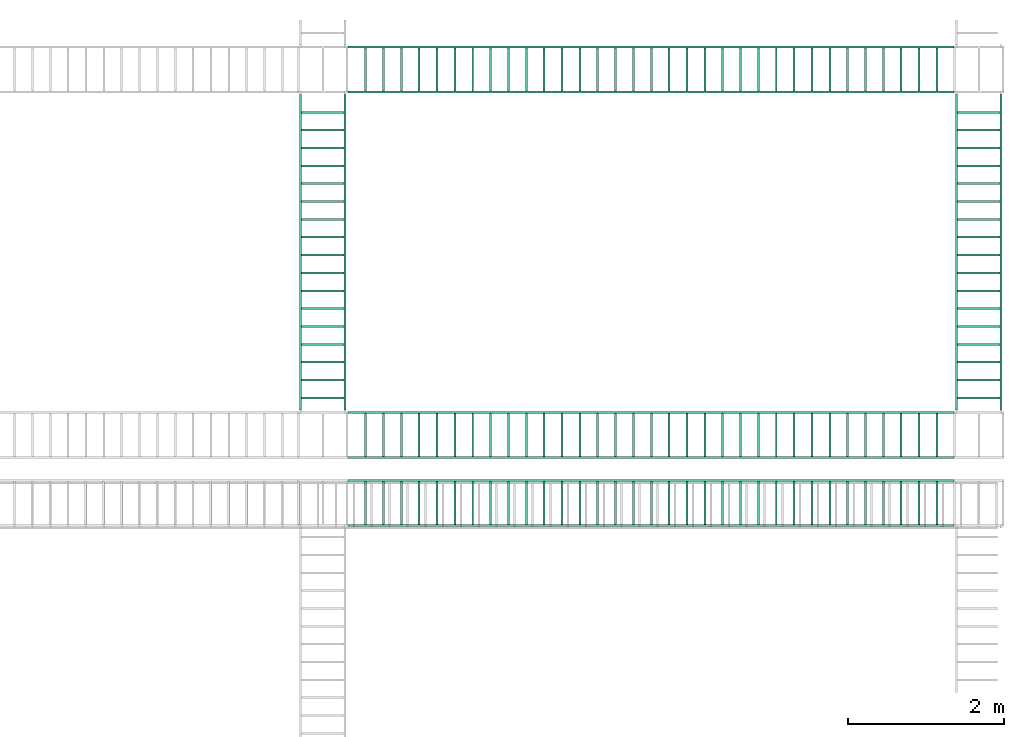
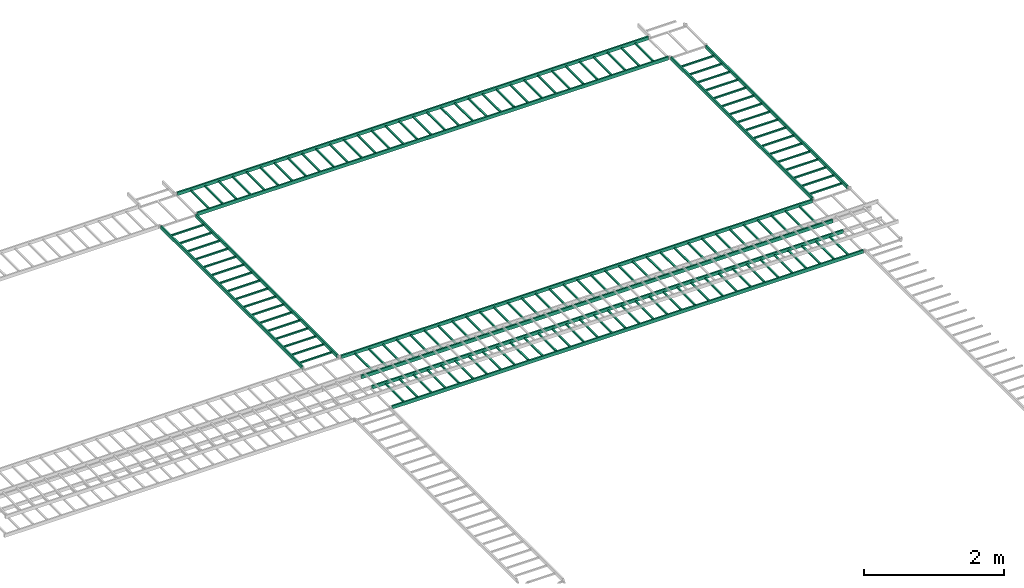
# One storey, part 1 of 7: 5 flow segments.
"""IFC2X3 building model written with IfcOpenShell, lengths in millimetres."""

from ifc_helpers import new_model, entity, si_unit, converted_unit, derived_unit, direction, frame, origin_with_axes, place, context, subcontext, project, spatial, open_shell, surface_model, source, transform, mapped, type_object, element, save


model = new_model("IFC2X3")

# Units and contexts
model_context = context("Model", 3, precision=0.01, world=frame((0.0, 4.29681676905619e-09, 0.0)), true_north=direction((4.01073788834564e-13, 1.0)))
plan_context = context("Plan", 3, precision=0.01, world=frame((0.0, 4.29681676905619e-09, 0.0)), true_north=direction((4.01073788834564e-13, 1.0)))
body_context = subcontext(model_context, "Body", "Model", "MODEL_VIEW")
ifc_project = project(units=[converted_unit("PLANEANGLEUNIT", "DEGREE", entity("IfcPositiveLengthMeasure", 0.0174532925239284), si_unit("PLANEANGLEUNIT", "RADIAN"), dimensions=[0, 0, 0, 0, 0, 0, 0]), si_unit("AREAUNIT", "SQUARE_METRE"), si_unit("LENGTHUNIT", "METRE", prefix="MILLI"), si_unit("MASSUNIT", "GRAM", prefix="KILO"), si_unit("POWERUNIT", "WATT"), si_unit("PRESSUREUNIT", "PASCAL", prefix="KILO"), si_unit("FORCEUNIT", "NEWTON", prefix="KILO"), si_unit("ELECTRICVOLTAGEUNIT", "VOLT"), si_unit("ELECTRICCURRENTUNIT", "AMPERE"), si_unit("THERMODYNAMICTEMPERATUREUNIT", "DEGREE_CELSIUS"), si_unit("TIMEUNIT", "SECOND"), si_unit("VOLUMEUNIT", "CUBIC_METRE"), derived_unit("LINEARVELOCITYUNIT", [(si_unit("LENGTHUNIT", "METRE"), 1), (si_unit("TIMEUNIT", "SECOND"), -1)]), derived_unit("VOLUMETRICFLOWRATEUNIT", [(si_unit("VOLUMEUNIT", "CUBIC_METRE"), 1), (si_unit("TIMEUNIT", "SECOND"), -1)]), derived_unit("THERMALTRANSMITTANCEUNIT", [(si_unit("POWERUNIT", "WATT"), 1), (si_unit("THERMODYNAMICTEMPERATUREUNIT", "KELVIN"), -1), (si_unit("AREAUNIT", "SQUARE_METRE"), -1)]), derived_unit("SOUNDPRESSUREUNIT", [(si_unit("PRESSUREUNIT", "PASCAL"), 1)])], contexts=[model_context, plan_context])

# Site, building, storey
site_placement = place(None, frame((0.0, -4.29681676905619e-09, 0.0), z_axis=(0.0, 0.0, 1.0), x_axis=(1.0, 0.0, 0.0)))
site = spatial("IfcSite", under=ifc_project, at=site_placement, Name="ENGM", CompositionType="ELEMENT")
building_placement = place(site_placement, frame((0.0, 4.29681676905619e-09, 0.0), z_axis=(0.0, 0.0, 1.0), x_axis=(1.0, 0.0, 0.0)))
building = spatial("IfcBuilding", under=site, at=building_placement, Name="TS", CompositionType="ELEMENT")
storey_placement = place(building_placement, frame((0.0, 0.0, 207370.0), z_axis=(0.0, 0.0, 1.0), x_axis=(1.0, 0.0, 0.0)))
storey = spatial("IfcBuildingStorey", under=building, at=storey_placement, Name="Nivå E", CompositionType="ELEMENT", Elevation=207370.0)

# Flow segments
cable_carrier_segment_type = type_object("IfcCableCarrierSegmentType", Name="Kabelbro", PredefinedType="CABLELADDERSEGMENT")
shared_shape_1 = source(origin_with_axes(), body_context, "Body", "SurfaceModel", [
    surface_model("IfcShellBasedSurfaceModel", [(241.30001, -274.60001, -4.6), (241.30001, -274.60001, -30.0), (241.30001, 274.60001, -4.6), (241.30001, 274.60001, -30.0), (215.89999, -274.60001, -30.0), (215.89999, -274.60001, -4.6), (215.89999, 274.60001, -30.0), (215.89999, 274.60001, -4.6), (469.89999, -274.60001, -4.6), (469.89999, -274.60001, -30.0), (469.89999, 274.60001, -4.6), (469.89999, 274.60001, -30.0), (444.50001, -274.60001, -30.0), (444.50001, -274.60001, -4.6), (444.50001, 274.60001, -30.0), (444.50001, 274.60001, -4.6), (698.50002, -274.60001, -4.6), (698.50002, -274.60001, -30.0), (698.50002, 274.60001, -4.6), (698.50002, 274.60001, -30.0), (673.09998, -274.60001, -30.0), (673.09998, -274.60001, -4.6), (673.09998, 274.60001, -30.0), (673.09998, 274.60001, -4.6), (927.10002, -274.60001, -4.6), (927.10002, -274.60001, -30.0), (927.10002, 274.60001, -4.6), (927.10002, 274.60001, -30.0), (901.69998, -274.60001, -30.0), (901.69998, -274.60001, -4.6), (901.69998, 274.60001, -30.0), (901.69998, 274.60001, -4.6), (1155.70002, -274.60001, -4.6), (1155.70002, -274.60001, -30.0), (1155.70002, 274.60001, -4.6), (1155.70002, 274.60001, -30.0), (1130.29998, -274.60001, -30.0), (1130.29998, -274.60001, -4.6), (1130.29998, 274.60001, -30.0), (1130.29998, 274.60001, -4.6), (1384.29995, -274.60001, -4.6), (1384.29995, -274.60001, -30.0), (1384.29995, 274.60001, -4.6), (1384.29995, 274.60001, -30.0), (1358.90005, -274.60001, -30.0), (1358.90005, -274.60001, -4.6), (1358.90005, 274.60001, -30.0), (1358.90005, 274.60001, -4.6), (1612.89995, -274.60001, -4.6), (1612.89995, -274.60001, -30.0), (1612.89995, 274.60001, -4.6), (1612.89995, 274.60001, -30.0), (1587.50005, -274.60001, -30.0), (1587.50005, -274.60001, -4.6), (1587.50005, 274.60001, -30.0), (1587.50005, 274.60001, -4.6), (1841.49995, -274.60001, -4.6), (1841.49995, -274.60001, -30.0), (1841.49995, 274.60001, -4.6), (1841.49995, 274.60001, -30.0), (1816.10005, -274.60001, -30.0), (1816.10005, -274.60001, -4.6), (1816.10005, 274.60001, -30.0), (1816.10005, 274.60001, -4.6), (2070.09995, -274.60001, -4.6), (2070.09995, -274.60001, -30.0), (2070.09995, 274.60001, -4.6), (2070.09995, 274.60001, -30.0), (2044.70005, -274.60001, -30.0), (2044.70005, -274.60001, -4.6), (2044.70005, 274.60001, -30.0), (2044.70005, 274.60001, -4.6), (2298.69995, -274.60001, -4.6), (2298.69995, -274.60001, -30.0), (2298.69995, 274.60001, -4.6), (2298.69995, 274.60001, -30.0), (2273.30005, -274.60001, -30.0), (2273.30005, -274.60001, -4.6), (2273.30005, 274.60001, -30.0), (2273.30005, 274.60001, -4.6), (2527.3001, -274.60001, -4.6), (2527.3001, -274.60001, -30.0), (2527.3001, 274.60001, -4.6), (2527.3001, 274.60001, -30.0), (2501.8999, -274.60001, -30.0), (2501.8999, -274.60001, -4.6), (2501.8999, 274.60001, -30.0), (2501.8999, 274.60001, -4.6), (2755.9001, -274.60001, -4.6), (2755.9001, -274.60001, -30.0), (2755.9001, 274.60001, -4.6), (2755.9001, 274.60001, -30.0), (2730.4999, -274.60001, -30.0), (2730.4999, -274.60001, -4.6), (2730.4999, 274.60001, -30.0), (2730.4999, 274.60001, -4.6), (2984.5001, -274.60001, -4.6), (2984.5001, -274.60001, -30.0), (2984.5001, 274.60001, -4.6), (2984.5001, 274.60001, -30.0), (2959.0999, -274.60001, -30.0), (2959.0999, -274.60001, -4.6), (2959.0999, 274.60001, -30.0), (2959.0999, 274.60001, -4.6), (3213.1001, -274.60001, -4.6), (3213.1001, -274.60001, -30.0), (3213.1001, 274.60001, -4.6), (3213.1001, 274.60001, -30.0), (3187.6999, -274.60001, -30.0), (3187.6999, -274.60001, -4.6), (3187.6999, 274.60001, -30.0), (3187.6999, 274.60001, -4.6), (3441.7001, -274.60001, -4.6), (3441.7001, -274.60001, -30.0), (3441.7001, 274.60001, -4.6), (3441.7001, 274.60001, -30.0), (3416.2999, -274.60001, -30.0), (3416.2999, -274.60001, -4.6), (3416.2999, 274.60001, -30.0), (3416.2999, 274.60001, -4.6), (3670.3001, -274.60001, -4.6), (3670.3001, -274.60001, -30.0), (3670.3001, 274.60001, -4.6), (3670.3001, 274.60001, -30.0), (3644.8999, -274.60001, -30.0), (3644.8999, -274.60001, -4.6), (3644.8999, 274.60001, -30.0), (3644.8999, 274.60001, -4.6), (3898.9001, -274.60001, -4.6), (3898.9001, -274.60001, -30.0), (3898.9001, 274.60001, -4.6), (3898.9001, 274.60001, -30.0), (3873.4999, -274.60001, -30.0), (3873.4999, -274.60001, -4.6), (3873.4999, 274.60001, -30.0), (3873.4999, 274.60001, -4.6), (4127.5001, -274.60001, -4.6), (4127.5001, -274.60001, -30.0), (4127.5001, 274.60001, -4.6), (4127.5001, 274.60001, -30.0), (4102.0999, -274.60001, -30.0), (4102.0999, -274.60001, -4.6), (4102.0999, 274.60001, -30.0), (4102.0999, 274.60001, -4.6), (4356.1001, -274.60001, -4.6), (4356.1001, -274.60001, -30.0), (4356.1001, 274.60001, -4.6), (4356.1001, 274.60001, -30.0), (4330.6999, -274.60001, -30.0), (4330.6999, -274.60001, -4.6), (4330.6999, 274.60001, -30.0), (4330.6999, 274.60001, -4.6), (4584.7001, -274.60001, -4.6), (4584.7001, -274.60001, -30.0), (4584.7001, 274.60001, -4.6), (4584.7001, 274.60001, -30.0), (4559.2999, -274.60001, -30.0), (4559.2999, -274.60001, -4.6), (4559.2999, 274.60001, -30.0), (4559.2999, 274.60001, -4.6), (4813.3001, -274.60001, -4.6), (4813.3001, -274.60001, -30.0), (4813.3001, 274.60001, -4.6), (4813.3001, 274.60001, -30.0), (4787.8999, -274.60001, -30.0), (4787.8999, -274.60001, -4.6), (4787.8999, 274.60001, -30.0), (4787.8999, 274.60001, -4.6), (5041.89981, -274.60001, -4.6), (5041.89981, -274.60001, -30.0), (5041.89981, 274.60001, -4.6), (5041.89981, 274.60001, -30.0), (5016.50019, -274.60001, -30.0), (5016.50019, -274.60001, -4.6), (5016.50019, 274.60001, -30.0), (5016.50019, 274.60001, -4.6), (5270.49981, -274.60001, -4.6), (5270.49981, -274.60001, -30.0), (5270.49981, 274.60001, -4.6), (5270.49981, 274.60001, -30.0), (5245.10019, -274.60001, -30.0), (5245.10019, -274.60001, -4.6), (5245.10019, 274.60001, -30.0), (5245.10019, 274.60001, -4.6), (5499.09981, -274.60001, -4.6), (5499.09981, -274.60001, -30.0), (5499.09981, 274.60001, -4.6), (5499.09981, 274.60001, -30.0), (5473.70019, -274.60001, -30.0), (5473.70019, -274.60001, -4.6), (5473.70019, 274.60001, -30.0), (5473.70019, 274.60001, -4.6), (5727.69981, -274.60001, -4.6), (5727.69981, -274.60001, -30.0), (5727.69981, 274.60001, -4.6), (5727.69981, 274.60001, -30.0), (5702.30019, -274.60001, -30.0), (5702.30019, -274.60001, -4.6), (5702.30019, 274.60001, -30.0), (5702.30019, 274.60001, -4.6), (5956.29981, -274.60001, -4.6), (5956.29981, -274.60001, -30.0), (5956.29981, 274.60001, -4.6), (5956.29981, 274.60001, -30.0), (5930.90019, -274.60001, -30.0), (5930.90019, -274.60001, -4.6), (5930.90019, 274.60001, -30.0), (5930.90019, 274.60001, -4.6), (6184.89981, -274.60001, -4.6), (6184.89981, -274.60001, -30.0), (6184.89981, 274.60001, -4.6), (6184.89981, 274.60001, -30.0), (6159.50019, -274.60001, -30.0), (6159.50019, -274.60001, -4.6), (6159.50019, 274.60001, -30.0), (6159.50019, 274.60001, -4.6), (6413.49981, -274.60001, -4.6), (6413.49981, -274.60001, -30.0), (6413.49981, 274.60001, -4.6), (6413.49981, 274.60001, -30.0), (6388.10019, -274.60001, -30.0), (6388.10019, -274.60001, -4.6), (6388.10019, 274.60001, -30.0), (6388.10019, 274.60001, -4.6), (6642.09981, -274.60001, -4.6), (6642.09981, -274.60001, -30.0), (6642.09981, 274.60001, -4.6), (6642.09981, 274.60001, -30.0), (6616.70019, -274.60001, -30.0), (6616.70019, -274.60001, -4.6), (6616.70019, 274.60001, -30.0), (6616.70019, 274.60001, -4.6), (6870.69981, -274.60001, -4.6), (6870.69981, -274.60001, -30.0), (6870.69981, 274.60001, -4.6), (6870.69981, 274.60001, -30.0), (6845.30019, -274.60001, -30.0), (6845.30019, -274.60001, -4.6), (6845.30019, 274.60001, -30.0), (6845.30019, 274.60001, -4.6), (7099.29981, -274.60001, -4.6), (7099.29981, -274.60001, -30.0), (7099.29981, 274.60001, -4.6), (7099.29981, 274.60001, -30.0), (7073.90019, -274.60001, -30.0), (7073.90019, -274.60001, -4.6), (7073.90019, 274.60001, -30.0), (7073.90019, 274.60001, -4.6), (7327.89981, -274.60001, -4.6), (7327.89981, -274.60001, -30.0), (7327.89981, 274.60001, -4.6), (7327.89981, 274.60001, -30.0), (7302.50019, -274.60001, -30.0), (7302.50019, -274.60001, -4.6), (7302.50019, 274.60001, -30.0), (7302.50019, 274.60001, -4.6), (7556.49981, -274.60001, -4.6), (7556.49981, -274.60001, -30.0), (7556.49981, 274.60001, -4.6), (7556.49981, 274.60001, -30.0), (7531.10019, -274.60001, -30.0), (7531.10019, -274.60001, -4.6), (7531.10019, 274.60001, -30.0), (7531.10019, 274.60001, -4.6), (0.0, -274.60001, -30.0), (0.0, -300.0, -30.0), (0.0, -300.0, 30.0), (0.0, -274.60001, 30.0), (0.0, 300.0, -30.0), (0.0, 274.60001, -30.0), (0.0, 274.60001, 30.0), (0.0, 300.0, 30.0), (7760.00018, -300.0, 30.0), (7760.00018, -300.0, -30.0), (7760.00018, -274.60001, -30.0), (7760.00018, -274.60001, 30.0), (7760.00018, 274.60001, 30.0), (7760.00018, 274.60001, -30.0), (7760.00018, 300.0, -30.0), (7760.00018, 300.0, 30.0)], [open_shell([[[0, 1, 2]], [[3, 2, 1]], [[4, 5, 6]], [[7, 6, 5]], [[8, 9, 10]], [[11, 10, 9]], [[12, 13, 14]], [[15, 14, 13]], [[16, 17, 18]], [[19, 18, 17]], [[20, 21, 22]], [[23, 22, 21]], [[24, 25, 26]], [[27, 26, 25]], [[28, 29, 30]], [[31, 30, 29]], [[32, 33, 34]], [[35, 34, 33]], [[36, 37, 38]], [[39, 38, 37]], [[40, 41, 42]], [[43, 42, 41]], [[44, 45, 46]], [[47, 46, 45]], [[48, 49, 50]], [[51, 50, 49]], [[52, 53, 54]], [[55, 54, 53]], [[56, 57, 58]], [[59, 58, 57]], [[60, 61, 62]], [[63, 62, 61]], [[64, 65, 66]], [[67, 66, 65]], [[68, 69, 70]], [[71, 70, 69]], [[72, 73, 74]], [[75, 74, 73]], [[76, 77, 78]], [[79, 78, 77]], [[80, 81, 82]], [[83, 82, 81]], [[84, 85, 86]], [[87, 86, 85]], [[88, 89, 90]], [[91, 90, 89]], [[92, 93, 94]], [[95, 94, 93]], [[96, 97, 98]], [[99, 98, 97]], [[100, 101, 102]], [[103, 102, 101]], [[104, 105, 106]], [[107, 106, 105]], [[108, 109, 110]], [[111, 110, 109]], [[112, 113, 114]], [[115, 114, 113]], [[116, 117, 118]], [[119, 118, 117]], [[120, 121, 122]], [[123, 122, 121]], [[124, 125, 126]], [[127, 126, 125]], [[128, 129, 130]], [[131, 130, 129]], [[132, 133, 134]], [[135, 134, 133]], [[136, 137, 138]], [[139, 138, 137]], [[140, 141, 142]], [[143, 142, 141]], [[144, 145, 146]], [[147, 146, 145]], [[148, 149, 150]], [[151, 150, 149]], [[152, 153, 154]], [[155, 154, 153]], [[156, 157, 158]], [[159, 158, 157]], [[160, 161, 162]], [[163, 162, 161]], [[164, 165, 166]], [[167, 166, 165]], [[168, 169, 170]], [[171, 170, 169]], [[172, 173, 174]], [[175, 174, 173]], [[176, 177, 178]], [[179, 178, 177]], [[180, 181, 182]], [[183, 182, 181]], [[184, 185, 186]], [[187, 186, 185]], [[188, 189, 190]], [[191, 190, 189]], [[192, 193, 194]], [[195, 194, 193]], [[196, 197, 198]], [[199, 198, 197]], [[200, 201, 202]], [[203, 202, 201]], [[204, 205, 206]], [[207, 206, 205]], [[208, 209, 210]], [[211, 210, 209]], [[212, 213, 214]], [[215, 214, 213]], [[216, 217, 218]], [[219, 218, 217]], [[220, 221, 222]], [[223, 222, 221]], [[224, 225, 226]], [[227, 226, 225]], [[228, 229, 230]], [[231, 230, 229]], [[232, 233, 234]], [[235, 234, 233]], [[236, 237, 238]], [[239, 238, 237]], [[240, 241, 242]], [[243, 242, 241]], [[244, 245, 246]], [[247, 246, 245]], [[248, 249, 250]], [[251, 250, 249]], [[252, 253, 254]], [[255, 254, 253]], [[256, 257, 258]], [[259, 258, 257]], [[260, 261, 262]], [[263, 262, 261]], [[264, 265, 266]], [[266, 267, 264]], [[268, 269, 270]], [[270, 271, 268]], [[1, 0, 5]], [[5, 4, 1]], [[7, 2, 3]], [[3, 6, 7]], [[9, 8, 13]], [[13, 12, 9]], [[15, 10, 11]], [[11, 14, 15]], [[17, 16, 21]], [[21, 20, 17]], [[23, 18, 19]], [[19, 22, 23]], [[25, 24, 29]], [[29, 28, 25]], [[31, 26, 27]], [[27, 30, 31]], [[33, 32, 37]], [[37, 36, 33]], [[39, 34, 35]], [[35, 38, 39]], [[41, 40, 45]], [[45, 44, 41]], [[47, 42, 43]], [[43, 46, 47]], [[49, 48, 53]], [[53, 52, 49]], [[55, 50, 51]], [[51, 54, 55]], [[57, 56, 61]], [[61, 60, 57]], [[63, 58, 59]], [[59, 62, 63]], [[65, 64, 69]], [[69, 68, 65]], [[71, 66, 67]], [[67, 70, 71]], [[73, 72, 77]], [[77, 76, 73]], [[79, 74, 75]], [[75, 78, 79]], [[81, 80, 85]], [[85, 84, 81]], [[87, 82, 83]], [[83, 86, 87]], [[89, 88, 93]], [[93, 92, 89]], [[95, 90, 91]], [[91, 94, 95]], [[97, 96, 101]], [[101, 100, 97]], [[103, 98, 99]], [[99, 102, 103]], [[105, 104, 109]], [[109, 108, 105]], [[111, 106, 107]], [[107, 110, 111]], [[113, 112, 117]], [[117, 116, 113]], [[119, 114, 115]], [[115, 118, 119]], [[121, 120, 125]], [[125, 124, 121]], [[127, 122, 123]], [[123, 126, 127]], [[129, 128, 133]], [[133, 132, 129]], [[135, 130, 131]], [[131, 134, 135]], [[137, 136, 141]], [[141, 140, 137]], [[143, 138, 139]], [[139, 142, 143]], [[145, 144, 149]], [[149, 148, 145]], [[151, 146, 147]], [[147, 150, 151]], [[153, 152, 157]], [[157, 156, 153]], [[159, 154, 155]], [[155, 158, 159]], [[161, 160, 165]], [[165, 164, 161]], [[167, 162, 163]], [[163, 166, 167]], [[169, 168, 173]], [[173, 172, 169]], [[175, 170, 171]], [[171, 174, 175]], [[177, 176, 181]], [[181, 180, 177]], [[183, 178, 179]], [[179, 182, 183]], [[185, 184, 189]], [[189, 188, 185]], [[191, 186, 187]], [[187, 190, 191]], [[193, 192, 197]], [[197, 196, 193]], [[199, 194, 195]], [[195, 198, 199]], [[201, 200, 205]], [[205, 204, 201]], [[207, 202, 203]], [[203, 206, 207]], [[209, 208, 213]], [[213, 212, 209]], [[215, 210, 211]], [[211, 214, 215]], [[217, 216, 221]], [[221, 220, 217]], [[223, 218, 219]], [[219, 222, 223]], [[225, 224, 229]], [[229, 228, 225]], [[231, 226, 227]], [[227, 230, 231]], [[233, 232, 237]], [[237, 236, 233]], [[239, 234, 235]], [[235, 238, 239]], [[241, 240, 245]], [[245, 244, 241]], [[247, 242, 243]], [[243, 246, 247]], [[249, 248, 253]], [[253, 252, 249]], [[255, 250, 251]], [[251, 254, 255]], [[257, 256, 261]], [[261, 260, 257]], [[263, 258, 259]], [[259, 262, 263]], [[1, 4, 6]], [[6, 3, 1]], [[9, 12, 14]], [[14, 11, 9]], [[17, 20, 22]], [[22, 19, 17]], [[25, 28, 30]], [[30, 27, 25]], [[33, 36, 38]], [[38, 35, 33]], [[41, 44, 46]], [[46, 43, 41]], [[5, 0, 2]], [[2, 7, 5]], [[13, 8, 10]], [[10, 15, 13]], [[21, 16, 18]], [[18, 23, 21]], [[29, 24, 26]], [[26, 31, 29]], [[37, 32, 34]], [[34, 39, 37]], [[45, 40, 42]], [[42, 47, 45]], [[53, 48, 50]], [[50, 55, 53]], [[49, 52, 54]], [[54, 51, 49]], [[61, 56, 58]], [[58, 63, 61]], [[57, 60, 62]], [[62, 59, 57]], [[69, 64, 66]], [[66, 71, 69]], [[65, 68, 70]], [[70, 67, 65]], [[77, 72, 74]], [[74, 79, 77]], [[73, 76, 78]], [[78, 75, 73]], [[85, 80, 82]], [[82, 87, 85]], [[81, 84, 86]], [[86, 83, 81]], [[93, 88, 90]], [[90, 95, 93]], [[89, 92, 94]], [[94, 91, 89]], [[101, 96, 98]], [[98, 103, 101]], [[97, 100, 102]], [[102, 99, 97]], [[109, 104, 106]], [[106, 111, 109]], [[105, 108, 110]], [[110, 107, 105]], [[117, 112, 114]], [[114, 119, 117]], [[113, 116, 118]], [[118, 115, 113]], [[125, 120, 122]], [[122, 127, 125]], [[121, 124, 126]], [[126, 123, 121]], [[133, 128, 130]], [[130, 135, 133]], [[129, 132, 134]], [[134, 131, 129]], [[141, 136, 138]], [[138, 143, 141]], [[137, 140, 142]], [[142, 139, 137]], [[149, 144, 146]], [[146, 151, 149]], [[145, 148, 150]], [[150, 147, 145]], [[157, 152, 154]], [[154, 159, 157]], [[153, 156, 158]], [[158, 155, 153]], [[165, 160, 162]], [[162, 167, 165]], [[161, 164, 166]], [[166, 163, 161]], [[173, 168, 170]], [[170, 175, 173]], [[169, 172, 174]], [[174, 171, 169]], [[181, 176, 178]], [[178, 183, 181]], [[177, 180, 182]], [[182, 179, 177]], [[189, 184, 186]], [[186, 191, 189]], [[185, 188, 190]], [[190, 187, 185]], [[197, 192, 194]], [[194, 199, 197]], [[193, 196, 198]], [[198, 195, 193]], [[205, 200, 202]], [[202, 207, 205]], [[201, 204, 206]], [[206, 203, 201]], [[213, 208, 210]], [[210, 215, 213]], [[209, 212, 214]], [[214, 211, 209]], [[221, 216, 218]], [[218, 223, 221]], [[217, 220, 222]], [[222, 219, 217]], [[229, 224, 226]], [[226, 231, 229]], [[225, 228, 230]], [[230, 227, 225]], [[237, 232, 234]], [[234, 239, 237]], [[233, 236, 238]], [[238, 235, 233]], [[245, 240, 242]], [[242, 247, 245]], [[241, 244, 246]], [[246, 243, 241]], [[253, 248, 250]], [[250, 255, 253]], [[249, 252, 254]], [[254, 251, 249]], [[261, 256, 258]], [[258, 263, 261]], [[257, 260, 262]], [[262, 259, 257]], [[272, 273, 274]], [[274, 275, 272]], [[276, 277, 278]], [[278, 279, 276]], [[266, 265, 272]], [[273, 272, 265]], [[267, 266, 275]], [[272, 275, 266]], [[264, 267, 274]], [[275, 274, 267]], [[265, 264, 273]], [[274, 273, 264]], [[268, 271, 278]], [[279, 278, 271]], [[269, 268, 277]], [[278, 277, 268]], [[270, 269, 276]], [[277, 276, 269]], [[271, 270, 279]], [[276, 279, 270]]])]),
])
for number, where, z_axis, x_axis in (
    (1, (720821.36631, 440025.59175, 2635.0), (0.0, 0.0, 1.0), (1.0, 0.0, 0.0)),
    (2, (720821.36631, 445578.66952, 2635.0), (0.0, 0.0, 1.0), (1.0, 0.0, 0.0)),
    (3, (720821.36631, 440899.11712, 2635.0), (0.0, 0.0, 1.0), (1.0, 0.0, 0.0)),
):
    element("IfcFlowSegment", number, at=place(storey_placement, frame(where, z_axis=z_axis, x_axis=x_axis)), inside=storey, type_object=cable_carrier_segment_type, Name="Kabelbro", context=body_context, shape_type="MappedRepresentation", body=[
        mapped(shared_shape_1, transform((0.0, 0.0, 0.0), scale=1.0)),
    ])
shared_shape_2 = source(origin_with_axes(), body_context, "Body", "SurfaceModel", [
    surface_model("IfcShellBasedSurfaceModel", [(0.0, -300.0, -30.0), (0.0, -300.0, 30.0), (0.0, -274.60001, 30.0), (0.0, -274.60001, -30.0), (0.0, 274.60001, -30.0), (0.0, 274.60001, 30.0), (0.0, 300.0, 30.0), (0.0, 300.0, -30.0), (215.89999, -274.60001, -30.0), (241.30001, -274.60001, -30.0), (241.30001, -274.60001, -4.6), (215.89999, -274.60001, -4.6), (241.30001, 274.60001, -4.6), (241.30001, 274.60001, -30.0), (215.89999, 274.60001, -30.0), (215.89999, 274.60001, -4.6), (444.50001, -274.60001, -30.0), (469.89999, -274.60001, -30.0), (469.89999, -274.60001, -4.6), (444.50001, -274.60001, -4.6), (469.89999, 274.60001, -4.6), (469.89999, 274.60001, -30.0), (444.50001, 274.60001, -30.0), (444.50001, 274.60001, -4.6), (673.09998, -274.60001, -30.0), (698.50002, -274.60001, -30.0), (698.50002, -274.60001, -4.6), (673.09998, -274.60001, -4.6), (698.50002, 274.60001, -4.6), (698.50002, 274.60001, -30.0), (673.09998, 274.60001, -30.0), (673.09998, 274.60001, -4.6), (901.69998, -274.60001, -30.0), (927.10002, -274.60001, -30.0), (927.10002, -274.60001, -4.6), (901.69998, -274.60001, -4.6), (927.10002, 274.60001, -4.6), (927.10002, 274.60001, -30.0), (901.69998, 274.60001, -30.0), (901.69998, 274.60001, -4.6), (1130.29998, -274.60001, -30.0), (1155.70002, -274.60001, -30.0), (1155.70002, -274.60001, -4.6), (1130.29998, -274.60001, -4.6), (1155.70002, 274.60001, -4.6), (1155.70002, 274.60001, -30.0), (1130.29998, 274.60001, -30.0), (1130.29998, 274.60001, -4.6), (1358.90005, -274.60001, -30.0), (1384.29995, -274.60001, -30.0), (1384.29995, -274.60001, -4.6), (1358.90005, -274.60001, -4.6), (1384.29995, 274.60001, -4.6), (1384.29995, 274.60001, -30.0), (1358.90005, 274.60001, -30.0), (1358.90005, 274.60001, -4.6), (1587.50005, -274.60001, -30.0), (1612.89995, -274.60001, -30.0), (1612.89995, -274.60001, -4.6), (1587.50005, -274.60001, -4.6), (1612.89995, 274.60001, -4.6), (1612.89995, 274.60001, -30.0), (1587.50005, 274.60001, -30.0), (1587.50005, 274.60001, -4.6), (1816.10005, -274.60001, -30.0), (1841.49995, -274.60001, -30.0), (1841.49995, -274.60001, -4.6), (1816.10005, -274.60001, -4.6), (1841.49995, 274.60001, -4.6), (1841.49995, 274.60001, -30.0), (1816.10005, 274.60001, -30.0), (1816.10005, 274.60001, -4.6), (2044.70005, -274.60001, -30.0), (2070.09995, -274.60001, -30.0), (2070.09995, -274.60001, -4.6), (2044.70005, -274.60001, -4.6), (2070.09995, 274.60001, -4.6), (2070.09995, 274.60001, -30.0), (2044.70005, 274.60001, -30.0), (2044.70005, 274.60001, -4.6), (2273.30005, -274.60001, -30.0), (2298.69995, -274.60001, -30.0), (2298.69995, -274.60001, -4.6), (2273.30005, -274.60001, -4.6), (2298.69995, 274.60001, -4.6), (2298.69995, 274.60001, -30.0), (2273.30005, 274.60001, -30.0), (2273.30005, 274.60001, -4.6), (2501.8999, -274.60001, -30.0), (2527.3001, -274.60001, -30.0), (2527.3001, -274.60001, -4.6), (2501.8999, -274.60001, -4.6), (2527.3001, 274.60001, -4.6), (2527.3001, 274.60001, -30.0), (2501.8999, 274.60001, -30.0), (2501.8999, 274.60001, -4.6), (2730.4999, -274.60001, -30.0), (2755.9001, -274.60001, -30.0), (2755.9001, -274.60001, -4.6), (2730.4999, -274.60001, -4.6), (2755.9001, 274.60001, -4.6), (2755.9001, 274.60001, -30.0), (2730.4999, 274.60001, -30.0), (2730.4999, 274.60001, -4.6), (2959.0999, -274.60001, -30.0), (2984.5001, -274.60001, -30.0), (2984.5001, -274.60001, -4.6), (2959.0999, -274.60001, -4.6), (2984.5001, 274.60001, -4.6), (2984.5001, 274.60001, -30.0), (2959.0999, 274.60001, -30.0), (2959.0999, 274.60001, -4.6), (3187.6999, -274.60001, -30.0), (3213.1001, -274.60001, -30.0), (3213.1001, -274.60001, -4.6), (3187.6999, -274.60001, -4.6), (3213.1001, 274.60001, -4.6), (3213.1001, 274.60001, -30.0), (3187.6999, 274.60001, -30.0), (3187.6999, 274.60001, -4.6), (3416.2999, -274.60001, -30.0), (3441.7001, -274.60001, -30.0), (3441.7001, -274.60001, -4.6), (3416.2999, -274.60001, -4.6), (3441.7001, 274.60001, -4.6), (3441.7001, 274.60001, -30.0), (3416.2999, 274.60001, -30.0), (3416.2999, 274.60001, -4.6), (3644.8999, -274.60001, -30.0), (3670.3001, -274.60001, -30.0), (3670.3001, -274.60001, -4.6), (3644.8999, -274.60001, -4.6), (3670.3001, 274.60001, -4.6), (3670.3001, 274.60001, -30.0), (3644.8999, 274.60001, -30.0), (3644.8999, 274.60001, -4.6), (3873.4999, -274.60001, -30.0), (3898.9001, -274.60001, -30.0), (3898.9001, -274.60001, -4.6), (3873.4999, -274.60001, -4.6), (3898.9001, 274.60001, -4.6), (3898.9001, 274.60001, -30.0), (3873.4999, 274.60001, -30.0), (3873.4999, 274.60001, -4.6), (4039.55227, -274.60001, 30.0), (4039.55227, -300.0, 30.0), (4039.55227, -300.0, -30.0), (4039.55227, -274.60001, -30.0), (4039.55227, 300.0, 30.0), (4039.55227, 274.60001, 30.0), (4039.55227, 274.60001, -30.0), (4039.55227, 300.0, -30.0)], [open_shell([[[0, 1, 2]], [[2, 3, 0]], [[4, 5, 6]], [[6, 7, 4]], [[8, 9, 10]], [[10, 11, 8]], [[12, 13, 14]], [[14, 15, 12]], [[10, 9, 12]], [[13, 12, 9]], [[11, 10, 15]], [[12, 15, 10]], [[8, 11, 14]], [[15, 14, 11]], [[9, 8, 13]], [[14, 13, 8]], [[16, 17, 18]], [[18, 19, 16]], [[20, 21, 22]], [[22, 23, 20]], [[18, 17, 20]], [[21, 20, 17]], [[19, 18, 23]], [[20, 23, 18]], [[16, 19, 22]], [[23, 22, 19]], [[17, 16, 21]], [[22, 21, 16]], [[24, 25, 26]], [[26, 27, 24]], [[28, 29, 30]], [[30, 31, 28]], [[26, 25, 28]], [[29, 28, 25]], [[27, 26, 31]], [[28, 31, 26]], [[24, 27, 30]], [[31, 30, 27]], [[25, 24, 29]], [[30, 29, 24]], [[32, 33, 34]], [[34, 35, 32]], [[36, 37, 38]], [[38, 39, 36]], [[34, 33, 36]], [[37, 36, 33]], [[35, 34, 39]], [[36, 39, 34]], [[32, 35, 38]], [[39, 38, 35]], [[33, 32, 37]], [[38, 37, 32]], [[40, 41, 42]], [[42, 43, 40]], [[44, 45, 46]], [[46, 47, 44]], [[42, 41, 44]], [[45, 44, 41]], [[43, 42, 47]], [[44, 47, 42]], [[40, 43, 46]], [[47, 46, 43]], [[41, 40, 45]], [[46, 45, 40]], [[48, 49, 50]], [[50, 51, 48]], [[52, 53, 54]], [[54, 55, 52]], [[50, 49, 52]], [[53, 52, 49]], [[51, 50, 55]], [[52, 55, 50]], [[48, 51, 54]], [[55, 54, 51]], [[49, 48, 53]], [[54, 53, 48]], [[56, 57, 58]], [[58, 59, 56]], [[60, 61, 62]], [[62, 63, 60]], [[58, 57, 60]], [[61, 60, 57]], [[59, 58, 63]], [[60, 63, 58]], [[56, 59, 62]], [[63, 62, 59]], [[57, 56, 61]], [[62, 61, 56]], [[64, 65, 66]], [[66, 67, 64]], [[68, 69, 70]], [[70, 71, 68]], [[66, 65, 68]], [[69, 68, 65]], [[67, 66, 71]], [[68, 71, 66]], [[64, 67, 70]], [[71, 70, 67]], [[65, 64, 69]], [[70, 69, 64]], [[72, 73, 74]], [[74, 75, 72]], [[76, 77, 78]], [[78, 79, 76]], [[74, 73, 76]], [[77, 76, 73]], [[75, 74, 79]], [[76, 79, 74]], [[72, 75, 78]], [[79, 78, 75]], [[73, 72, 77]], [[78, 77, 72]], [[80, 81, 82]], [[82, 83, 80]], [[84, 85, 86]], [[86, 87, 84]], [[82, 81, 84]], [[85, 84, 81]], [[83, 82, 87]], [[84, 87, 82]], [[80, 83, 86]], [[87, 86, 83]], [[81, 80, 85]], [[86, 85, 80]], [[88, 89, 90]], [[90, 91, 88]], [[92, 93, 94]], [[94, 95, 92]], [[90, 89, 92]], [[93, 92, 89]], [[91, 90, 95]], [[92, 95, 90]], [[88, 91, 94]], [[95, 94, 91]], [[89, 88, 93]], [[94, 93, 88]], [[96, 97, 98]], [[98, 99, 96]], [[100, 101, 102]], [[102, 103, 100]], [[98, 97, 100]], [[101, 100, 97]], [[99, 98, 103]], [[100, 103, 98]], [[96, 99, 102]], [[103, 102, 99]], [[97, 96, 101]], [[102, 101, 96]], [[104, 105, 106]], [[106, 107, 104]], [[108, 109, 110]], [[110, 111, 108]], [[106, 105, 108]], [[109, 108, 105]], [[107, 106, 111]], [[108, 111, 106]], [[104, 107, 110]], [[111, 110, 107]], [[105, 104, 109]], [[110, 109, 104]], [[112, 113, 114]], [[114, 115, 112]], [[116, 117, 118]], [[118, 119, 116]], [[114, 113, 116]], [[117, 116, 113]], [[115, 114, 119]], [[116, 119, 114]], [[112, 115, 118]], [[119, 118, 115]], [[113, 112, 117]], [[118, 117, 112]], [[120, 121, 122]], [[122, 123, 120]], [[124, 125, 126]], [[126, 127, 124]], [[122, 121, 124]], [[125, 124, 121]], [[123, 122, 127]], [[124, 127, 122]], [[120, 123, 126]], [[127, 126, 123]], [[121, 120, 125]], [[126, 125, 120]], [[128, 129, 130]], [[130, 131, 128]], [[132, 133, 134]], [[134, 135, 132]], [[130, 129, 132]], [[133, 132, 129]], [[131, 130, 135]], [[132, 135, 130]], [[128, 131, 134]], [[135, 134, 131]], [[129, 128, 133]], [[134, 133, 128]], [[136, 137, 138]], [[138, 139, 136]], [[140, 141, 142]], [[142, 143, 140]], [[138, 137, 140]], [[141, 140, 137]], [[139, 138, 143]], [[140, 143, 138]], [[136, 139, 142]], [[143, 142, 139]], [[137, 136, 141]], [[142, 141, 136]], [[144, 145, 146]], [[146, 147, 144]], [[148, 149, 150]], [[150, 151, 148]], [[1, 0, 145]], [[146, 145, 0]], [[2, 1, 145]], [[145, 144, 2]], [[3, 2, 147]], [[144, 147, 2]], [[0, 3, 146]], [[147, 146, 3]], [[7, 6, 151]], [[148, 151, 6]], [[4, 7, 150]], [[151, 150, 7]], [[5, 4, 149]], [[150, 149, 4]], [[6, 5, 149]], [[149, 148, 6]]])]),
])
for number, where, z_axis, x_axis in (
    (4, (720501.36631, 445258.66952, 2635.0), (0.0, 0.0, 1.0), (0.0, -1.0, 0.0)),
    (5, (728901.36631, 445258.66952, 2635.0), (0.0, 0.0, 1.0), (0.0, -1.0, 0.0)),
):
    element("IfcFlowSegment", number, at=place(storey_placement, frame(where, z_axis=z_axis, x_axis=x_axis)), inside=storey, type_object=cable_carrier_segment_type, Name="Kabelbro", context=body_context, shape_type="MappedRepresentation", body=[
        mapped(shared_shape_2, transform((0.0, 0.0, 0.0), scale=1.0)),
    ])

save(model, "model.ifc")
